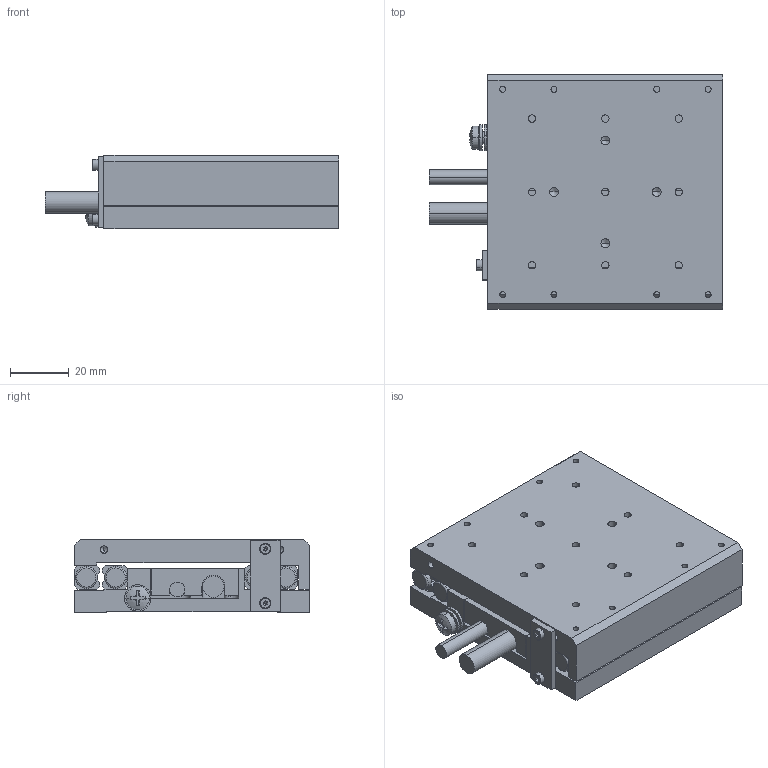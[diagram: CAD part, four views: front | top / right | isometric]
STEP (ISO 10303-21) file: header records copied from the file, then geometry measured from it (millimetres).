
FILE_DESCRIPTION (( 'STEP AP203' ), '1' );
FILE_NAME ('V-408.132020.STEP', '2017-06-27T10:20:36', ( 'test' ), ( '' ), 'SwSTEP 2.0', 'SolidWorks 2016', '' );
FILE_SCHEMA (( 'CONFIG_CONTROL_DESIGN' ));
Length unit declared in the file: millimetre
Products named in the file (1): V-408.132020
Bounding box: 100 x 80 x 25 mm (x, y, z)
Volume: 128451.6 mm3; surface area: 53230.2 mm2
Topology: 17 solids, 17 shells, 419 faces, 1039 edges, 652 vertices
Faces by surface type: plane 209, cylinder 149, cone 37, torus 22, sphere 2
Entity records: 12482 total; most frequent: DIRECTION 2239, CARTESIAN_POINT 2139, ORIENTED_EDGE 2032, EDGE_CURVE 1016, AXIS2_PLACEMENT_3D 810, VERTEX_POINT 652, VECTOR 619, LINE 619
